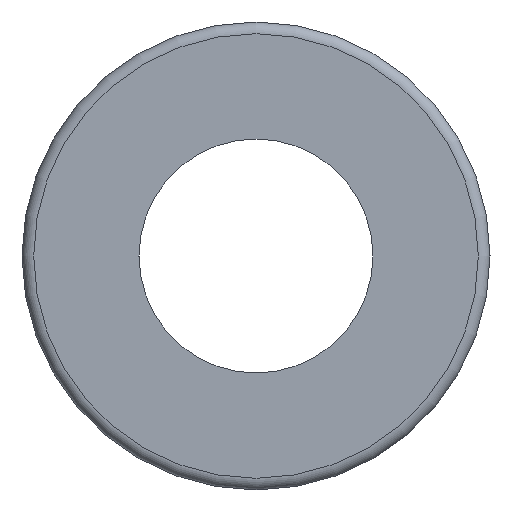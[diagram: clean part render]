
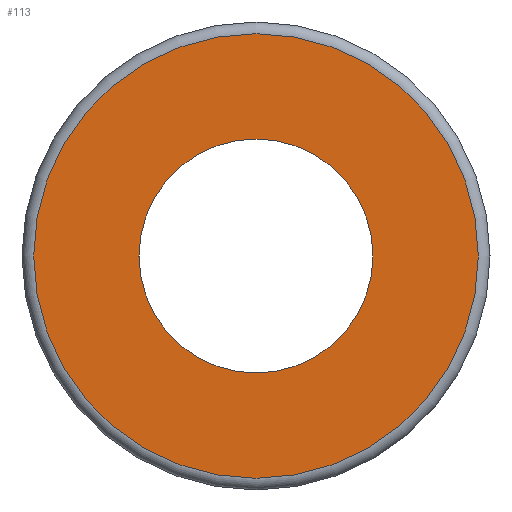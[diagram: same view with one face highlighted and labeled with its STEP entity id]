
A CAD part, left-side view. The second image highlights one B-rep face of the part: STEP entity #113.
In plain terms, the highlighted planar face has unit normal (-1, 0, 0).
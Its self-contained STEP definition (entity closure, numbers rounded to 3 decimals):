
#21 = EDGE_CURVE('',#22,#22,#24,.T.);
#22 = VERTEX_POINT('',#23);
#23 = CARTESIAN_POINT('',(0.,0.,-3.8));
#24 = SURFACE_CURVE('',#25,(#30,#42),.PCURVE_S1.);
#25 = CIRCLE('',#26,3.8);
#26 = AXIS2_PLACEMENT_3D('',#27,#28,#29);
#27 = CARTESIAN_POINT('',(0.,0.,0.));
#28 = DIRECTION('',(1.,0.,-0.));
#29 = DIRECTION('',(-0.,0.,-1.));
#30 = PCURVE('',#31,#36);
#31 = TOROIDAL_SURFACE('',#32,3.8,0.2);
#32 = AXIS2_PLACEMENT_3D('',#33,#34,#35);
#33 = CARTESIAN_POINT('',(0.2,0.,0.));
#34 = DIRECTION('',(1.,0.,-0.));
#35 = DIRECTION('',(-0.,0.,-1.));
#36 = DEFINITIONAL_REPRESENTATION('',(#37),#41);
#37 = LINE('',#38,#39);
#38 = CARTESIAN_POINT('',(0.,4.712));
#39 = VECTOR('',#40,1.);
#40 = DIRECTION('',(1.,0.));
#41 = ( GEOMETRIC_REPRESENTATION_CONTEXT(2) 
PARAMETRIC_REPRESENTATION_CONTEXT() REPRESENTATION_CONTEXT('2D SPACE',''
  ) );
#42 = PCURVE('',#43,#48);
#43 = PLANE('',#44);
#44 = AXIS2_PLACEMENT_3D('',#45,#46,#47);
#45 = CARTESIAN_POINT('',(0.,3.8,0.));
#46 = DIRECTION('',(-1.,0.,0.));
#47 = DIRECTION('',(0.,0.,1.));
#48 = DEFINITIONAL_REPRESENTATION('',(#49),#57);
#49 = ( BOUNDED_CURVE() B_SPLINE_CURVE(2,(#50,#51,#52,#53,#54,#55,#56),
.UNSPECIFIED.,.T.,.F.) B_SPLINE_CURVE_WITH_KNOTS((1,2,2,2,2,1),(
    -2.094,0.,2.094,4.189,6.283,
8.378),.UNSPECIFIED.) CURVE() GEOMETRIC_REPRESENTATION_ITEM() 
RATIONAL_B_SPLINE_CURVE((1.,0.5,1.,0.5,1.,0.5,1.)) REPRESENTATION_ITEM(
  '') );
#50 = CARTESIAN_POINT('',(-3.8,-3.8));
#51 = CARTESIAN_POINT('',(-3.8,2.782));
#52 = CARTESIAN_POINT('',(1.9,-0.509));
#53 = CARTESIAN_POINT('',(7.6,-3.8));
#54 = CARTESIAN_POINT('',(1.9,-7.091));
#55 = CARTESIAN_POINT('',(-3.8,-10.382));
#56 = CARTESIAN_POINT('',(-3.8,-3.8));
#57 = ( GEOMETRIC_REPRESENTATION_CONTEXT(2) 
PARAMETRIC_REPRESENTATION_CONTEXT() REPRESENTATION_CONTEXT('2D SPACE',''
  ) );
#113 = ADVANCED_FACE('',(#114,#149),#43,.T.);
#114 = FACE_BOUND('',#115,.T.);
#115 = EDGE_LOOP('',(#116));
#116 = ORIENTED_EDGE('',*,*,#117,.T.);
#117 = EDGE_CURVE('',#118,#118,#120,.T.);
#118 = VERTEX_POINT('',#119);
#119 = CARTESIAN_POINT('',(0.,0.,-2.));
#120 = SURFACE_CURVE('',#121,(#126,#137),.PCURVE_S1.);
#121 = CIRCLE('',#122,2.);
#122 = AXIS2_PLACEMENT_3D('',#123,#124,#125);
#123 = CARTESIAN_POINT('',(0.,0.,0.));
#124 = DIRECTION('',(1.,0.,-0.));
#125 = DIRECTION('',(-0.,0.,-1.));
#126 = PCURVE('',#43,#127);
#127 = DEFINITIONAL_REPRESENTATION('',(#128),#136);
#128 = ( BOUNDED_CURVE() B_SPLINE_CURVE(2,(#129,#130,#131,#132,#133,#134
,#135),.UNSPECIFIED.,.T.,.F.) B_SPLINE_CURVE_WITH_KNOTS((1,2,2,2,2,1),(
    -2.094,0.,2.094,4.189,6.283,
8.378),.UNSPECIFIED.) CURVE() GEOMETRIC_REPRESENTATION_ITEM() 
RATIONAL_B_SPLINE_CURVE((1.,0.5,1.,0.5,1.,0.5,1.)) REPRESENTATION_ITEM(
  '') );
#129 = CARTESIAN_POINT('',(-2.,-3.8));
#130 = CARTESIAN_POINT('',(-2.,-0.336));
#131 = CARTESIAN_POINT('',(1.,-2.068));
#132 = CARTESIAN_POINT('',(4.,-3.8));
#133 = CARTESIAN_POINT('',(1.,-5.532));
#134 = CARTESIAN_POINT('',(-2.,-7.264));
#135 = CARTESIAN_POINT('',(-2.,-3.8));
#136 = ( GEOMETRIC_REPRESENTATION_CONTEXT(2) 
PARAMETRIC_REPRESENTATION_CONTEXT() REPRESENTATION_CONTEXT('2D SPACE',''
  ) );
#137 = PCURVE('',#138,#143);
#138 = CYLINDRICAL_SURFACE('',#139,2.);
#139 = AXIS2_PLACEMENT_3D('',#140,#141,#142);
#140 = CARTESIAN_POINT('',(23.,0.,0.));
#141 = DIRECTION('',(-1.,-0.,0.));
#142 = DIRECTION('',(-0.,0.,-1.));
#143 = DEFINITIONAL_REPRESENTATION('',(#144),#148);
#144 = LINE('',#145,#146);
#145 = CARTESIAN_POINT('',(6.283,23.));
#146 = VECTOR('',#147,1.);
#147 = DIRECTION('',(-1.,0.));
#148 = ( GEOMETRIC_REPRESENTATION_CONTEXT(2) 
PARAMETRIC_REPRESENTATION_CONTEXT() REPRESENTATION_CONTEXT('2D SPACE',''
  ) );
#149 = FACE_BOUND('',#150,.T.);
#150 = EDGE_LOOP('',(#151));
#151 = ORIENTED_EDGE('',*,*,#21,.F.);
